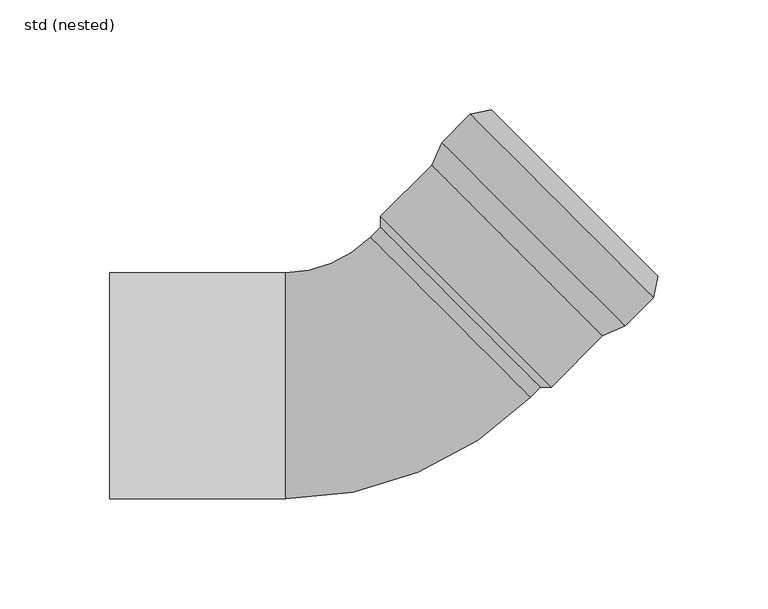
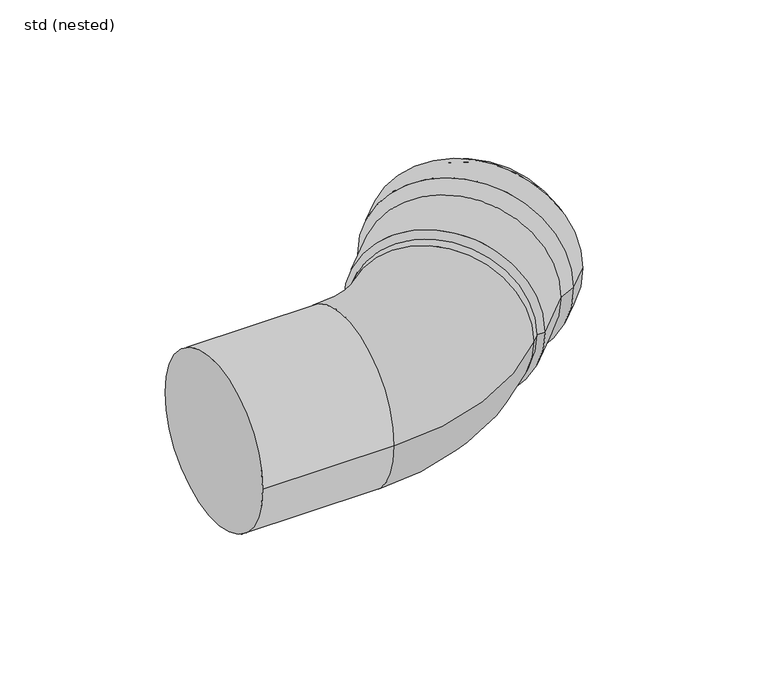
"""IFC4 building model written with IfcOpenShell, lengths in millimetres: pipe fitting geometry, ZZZ_do not use_PIF_ST_UN_GM-X pipe bend_ACO : std (nested)."""

from ifc_helpers import new_model, si_unit, point, frame, origin, place, context, project, spatial, polyline, circle_curve, ellipse_curve, trimmed, source, transform, mapped, element, save
from ifc_brep_helpers import plane_surface, cylinder_surface, revolved_surface, advanced_brep


def std_nested_b571e0d2(model_context):
    return source(origin(), model_context, "Body", "AdvancedBrep", [
        advanced_brep(
        [(110.6622113, 27.2236111, 0.0), (27.2236111, 110.6622113, 0.0), (40.0929545, 123.5315547, 0.0), (123.5315547, 40.0929545, 0.0), (100.4091629, 22.627417, 0.0), (22.627417, 100.4091629, 0.0), (49.8510281, 125.5114537, 0.0), (125.5114537, 49.8510281, 0.0), (77.0746391, -0.7071068, 0.0), (-0.7071068, 77.0746391, 0.0), (72.1248917, -0.7071068, 0.0), (-0.7071068, 72.1248917, 0.0), (74.5997654, 1.767767, 0.0), (1.767767, 74.5997654, 0.0), (99.2552009, 24.3018821, 0.0), (24.3018821, 99.2552009, 0.0), (0.7071068, 75.6604256, 0.0), (75.6604256, 0.7071068, 0.0), (109.5082492, 28.8980762, 0.0), (28.8980762, 109.5082492, 0.0), (121.691301, 41.081128, 0.0), (41.081128, 121.691301, 0.0), (123.5513925, 50.2487216, 0.0), (50.2487216, 123.5513925, 0.0)],
        [
            (0, 1, circle_curve(frame((68.9429112, 68.9429112, 0.0), z_axis=(0.7071067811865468, 0.7071067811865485, 0.0), x_axis=(-0.7071067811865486, 0.7071067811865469, 0.0)), 59.0)),
            (1, 2),
            (2, 3, circle_curve(frame((81.8122546, 81.8122546, 0.0), z_axis=(-0.7071067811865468, -0.7071067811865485, 0.0), x_axis=(-0.7071067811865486, 0.7071067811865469, 0.0)), 59.0)),
            (3, 0),
            (1, 0, circle_curve(frame((68.9429112, 68.9429112, 0.0), z_axis=(0.7071067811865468, 0.7071067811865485, 0.0), x_axis=(-0.7071067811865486, 0.7071067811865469, 0.0)), 59.0)),
            (3, 2, circle_curve(frame((81.8122546, 81.8122546, 0.0), z_axis=(-0.7071067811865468, -0.7071067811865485, 0.0), x_axis=(-0.7071067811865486, 0.7071067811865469, 0.0)), 59.0)),
            (4, 5, circle_curve(frame((61.51829, 61.51829, 0.0), z_axis=(0.7071067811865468, 0.7071067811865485, 0.0), x_axis=(-0.7071067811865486, 0.7071067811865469, 0.0)), 55.0)),
            (5, 1),
            (0, 4),
            (5, 4, circle_curve(frame((61.51829, 61.51829, 0.0), z_axis=(0.7071067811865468, 0.7071067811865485, 0.0), x_axis=(-0.7071067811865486, 0.7071067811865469, 0.0)), 55.0)),
            (2, 6),
            (6, 7, circle_curve(frame((87.6812409, 87.6812409, 0.0), z_axis=(-0.7071067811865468, -0.7071067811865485, 0.0), x_axis=(-0.7071067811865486, 0.7071067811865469, 0.0)), 53.5)),
            (7, 3),
            (7, 6, circle_curve(frame((87.6812409, 87.6812409, 0.0), z_axis=(-0.7071067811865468, -0.7071067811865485, 0.0), x_axis=(-0.7071067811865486, 0.7071067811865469, 0.0)), 53.5)),
            (8, 9, circle_curve(frame((38.1837662, 38.1837662, 0.0), z_axis=(0.7071067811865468, 0.7071067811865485, 0.0), x_axis=(-0.7071067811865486, 0.7071067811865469, 0.0)), 55.0)),
            (9, 5),
            (4, 8),
            (9, 8, circle_curve(frame((38.1837662, 38.1837662, 0.0), z_axis=(0.7071067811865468, 0.7071067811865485, 0.0), x_axis=(-0.7071067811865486, 0.7071067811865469, 0.0)), 55.0)),
            (10, 11, circle_curve(frame((35.7088924, 35.7088924, 0.0), z_axis=(0.7071067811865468, 0.7071067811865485, 0.0), x_axis=(-0.7071067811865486, 0.7071067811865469, 0.0)), 51.5)),
            (11, 9),
            (8, 10),
            (11, 10, circle_curve(frame((35.7088924, 35.7088924, 0.0), z_axis=(0.7071067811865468, 0.7071067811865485, 0.0), x_axis=(-0.7071067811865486, 0.7071067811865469, 0.0)), 51.5)),
            (12, 13, circle_curve(frame((38.1837662, 38.1837662, 0.0), z_axis=(0.7071067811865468, 0.7071067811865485, 0.0), x_axis=(-0.7071067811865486, 0.7071067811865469, 0.0)), 51.5)),
            (13, 11),
            (10, 12),
            (13, 12, circle_curve(frame((38.1837662, 38.1837662, 0.0), z_axis=(0.7071067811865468, 0.7071067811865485, 0.0), x_axis=(-0.7071067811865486, 0.7071067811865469, 0.0)), 51.5)),
            (14, 15, circle_curve(frame((61.7785415, 61.7785415, 0.0), z_axis=(0.7071067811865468, 0.7071067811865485, 0.0), x_axis=(-0.7071067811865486, 0.7071067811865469, 0.0)), 53.0)),
            (15, 16),
            (16, 17, circle_curve(frame((38.1837662, 38.1837662, 0.0), z_axis=(-0.7071067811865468, -0.7071067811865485, 0.0), x_axis=(-0.7071067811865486, 0.7071067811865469, 0.0)), 53.0)),
            (17, 14),
            (15, 14, circle_curve(frame((61.7785415, 61.7785415, 0.0), z_axis=(0.7071067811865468, 0.7071067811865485, 0.0), x_axis=(-0.7071067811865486, 0.7071067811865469, 0.0)), 53.0)),
            (17, 16, circle_curve(frame((38.1837662, 38.1837662, 0.0), z_axis=(-0.7071067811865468, -0.7071067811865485, 0.0), x_axis=(-0.7071067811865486, 0.7071067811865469, 0.0)), 53.0)),
            (18, 19, circle_curve(frame((69.2031627, 69.2031627, 0.0), z_axis=(0.7071067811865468, 0.7071067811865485, 0.0), x_axis=(-0.7071067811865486, 0.7071067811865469, 0.0)), 57.0)),
            (19, 15),
            (14, 18),
            (19, 18, circle_curve(frame((69.2031627, 69.2031627, 0.0), z_axis=(0.7071067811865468, 0.7071067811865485, 0.0), x_axis=(-0.7071067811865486, 0.7071067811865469, 0.0)), 57.0)),
            (20, 21, circle_curve(frame((81.3862145, 81.3862145, 0.0), z_axis=(0.7071067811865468, 0.7071067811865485, 0.0), x_axis=(-0.7071067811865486, 0.7071067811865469, 0.0)), 57.0)),
            (21, 19),
            (18, 20),
            (21, 20, circle_curve(frame((81.3862145, 81.3862145, 0.0), z_axis=(0.7071067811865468, 0.7071067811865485, 0.0), x_axis=(-0.7071067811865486, 0.7071067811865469, 0.0)), 57.0)),
            (22, 23, circle_curve(frame((86.9000571, 86.9000571, 0.0), z_axis=(0.7071067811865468, 0.7071067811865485, 0.0), x_axis=(-0.7071067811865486, 0.7071067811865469, 0.0)), 51.8328156)),
            (23, 21),
            (20, 22),
            (23, 22, circle_curve(frame((86.9000571, 86.9000571, 0.0), z_axis=(0.7071067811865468, 0.7071067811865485, 0.0), x_axis=(-0.7071067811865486, 0.7071067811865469, 0.0)), 51.8328156)),
            (6, 23),
            (22, 7),
            (16, 13),
            (12, 17),
        ],
        [
            cylinder_surface(frame((85.3084816, 85.3084816, 0.0), z_axis=(-0.7071067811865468, -0.7071067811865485, 0.0), x_axis=(-0.7071067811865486, 0.7071067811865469, 0.0)), 59.0),
            revolved_surface(polyline([(27.2236111, 110.6622113, 0.0), (22.627417, 100.4091629, 0.0)]), (85.3084816, 85.3084816, 0.0), (-0.7071067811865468, -0.7071067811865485, 0.0)),
            revolved_surface(polyline([(49.8510281, 125.5114537, 0.0), (40.0929545, 123.5315547, 0.0)]), (85.3084816, 85.3084816, 0.0), (-0.7071067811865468, -0.7071067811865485, 0.0)),
            cylinder_surface(frame((85.3084816, 85.3084816, 0.0), z_axis=(-0.7071067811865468, -0.7071067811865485, 0.0), x_axis=(-0.7071067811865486, 0.7071067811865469, 0.0)), 55.0),
            revolved_surface(polyline([(-0.7071068, 77.0746391, 0.0), (-0.7071068, 72.1248917, 0.0)]), (85.3084816, 85.3084816, 0.0), (-0.7071067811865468, -0.7071067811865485, 0.0)),
            revolved_surface(polyline([(-0.7071068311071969, 72.12489163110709, 0.0), (1.767766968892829, 74.59976543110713, 0.0)]), (85.3084816, 85.3084816, 0.0), (-0.7071067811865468, -0.7071067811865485, 0.0)),
            revolved_surface(polyline([(0.7071067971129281, 75.66042560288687, 0.0), (24.301882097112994, 99.255200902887, 0.0)]), (85.3084816, 85.3084816, 0.0), (-0.7071067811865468, -0.7071067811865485, 0.0)),
            revolved_surface(polyline([(24.3018821, 99.2552009, 0.0), (28.8980762, 109.5082492, 0.0)]), (85.3084816, 85.3084816, 0.0), (-0.7071067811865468, -0.7071067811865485, 0.0)),
            revolved_surface(polyline([(28.898076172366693, 109.50824922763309, 0.0), (41.08112797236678, 121.6913010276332, 0.0)]), (85.3084816, 85.3084816, 0.0), (-0.7071067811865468, -0.7071067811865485, 0.0)),
            revolved_surface(polyline([(41.081128, 121.691301, 0.0), (50.2487216, 123.5513925, 0.0)]), (85.3084816, 85.3084816, 0.0), (-0.7071067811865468, -0.7071067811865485, 0.0)),
            revolved_surface(polyline([(50.2487216, 123.5513925, 0.0), (49.8510281, 125.5114537, 0.0)]), (85.3084816, 85.3084816, 0.0), (-0.7071067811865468, -0.7071067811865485, 0.0)),
            plane_surface(frame((38.1837662, 38.1837662, 0.0), z_axis=(0.7071067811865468, 0.7071067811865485, 0.0), x_axis=(-0.7071067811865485, 0.7071067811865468, 0.0))),
        ],
        [
            (0, [[1, 2, 3, 4]]),
            (0, [[5, -4, 6, -2]]),
            (1, [[7, 8, -1, 9]]),
            (1, [[10, -9, -5, -8]]),
            (2, [[-3, 11, 12, 13]]),
            (2, [[-6, -13, 14, -11]]),
            (3, [[15, 16, -7, 17]]),
            (3, [[18, -17, -10, -16]]),
            (4, [[19, 20, -15, 21]]),
            (4, [[22, -21, -18, -20]]),
            (5, [[23, 24, -19, 25]]),
            (5, [[26, -25, -22, -24]]),
            (6, [[27, 28, 29, 30]]),
            (6, [[31, -30, 32, -28]]),
            (7, [[33, 34, -27, 35]]),
            (7, [[36, -35, -31, -34]]),
            (8, [[37, 38, -33, 39]]),
            (8, [[40, -39, -36, -38]]),
            (9, [[41, 42, -37, 43]]),
            (9, [[44, -43, -40, -42]]),
            (10, [[-12, 45, -41, 46]]),
            (10, [[-14, -46, -44, -45]]),
            (11, [[-29, 47, -23, 48]]),
            (11, [[-32, -48, -26, -47]]),
        ],
    ),
        advanced_brep(
        [(-5.3033009, 67.5286976, 0.0), (-44.0, 51.5, 0.0), (-44.0, -51.5, 0.0), (67.5286976, -5.3033009, 0.0), (31.1126984, 31.1126984, 51.5), (31.1126984, 31.1126984, -51.5), (-124.0, -51.5, 0.0), (-124.0, 51.5, 0.0), (74.5997654, 1.767767, 0.0), (1.767767, 74.5997654, 0.0)],
        [
            (0, 1, circle_curve(frame((-44.0, 106.2253967, 0.0), z_axis=(0.0, 0.0, -1.0), x_axis=(0.0, -1.0, 0.0)), 54.7253967)),
            (1, 2, circle_curve(frame((-44.0, 0.0, 0.0), z_axis=(1.0, 0.0, 0.0), x_axis=(0.0, 1.0, 0.0)), 51.5)),
            (2, 3, circle_curve(frame((-44.0, 106.2253967, 0.0), z_axis=(0.0, 0.0, 1.0), x_axis=(0.0, -1.0, 0.0)), 157.7253967)),
            (3, 4, circle_curve(frame((31.1126984, 31.1126984, 0.0), z_axis=(-0.7071067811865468, -0.7071067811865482, 0.0), x_axis=(-0.7071067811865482, 0.7071067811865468, 0.0)), 51.5)),
            (4, 0, circle_curve(frame((31.1126984, 31.1126984, 0.0), z_axis=(-0.7071067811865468, -0.7071067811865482, 0.0), x_axis=(-0.7071067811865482, 0.7071067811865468, 0.0)), 51.5)),
            (0, 5, circle_curve(frame((31.1126984, 31.1126984, 0.0), z_axis=(-0.7071067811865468, -0.7071067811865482, 0.0), x_axis=(-0.7071067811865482, 0.7071067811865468, 0.0)), 51.5)),
            (5, 3, circle_curve(frame((31.1126984, 31.1126984, 0.0), z_axis=(-0.7071067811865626, -0.7071067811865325, 0.0), x_axis=(-0.7071067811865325, 0.7071067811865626, 0.0)), 51.5)),
            (2, 1, circle_curve(frame((-44.0, 0.0, 0.0), z_axis=(1.0, 0.0, 0.0), x_axis=(0.0, 1.0, 0.0)), 51.5)),
            (6, 7, circle_curve(frame((-124.0, 0.0, 0.0), z_axis=(-1.0, 0.0, 0.0), x_axis=(0.0, 1.0, 0.0)), 51.5)),
            (7, 6, circle_curve(frame((-124.0, 0.0, 0.0), z_axis=(-1.0, 0.0, 0.0), x_axis=(0.0, 1.0, 0.0)), 51.5)),
            (7, 1),
            (2, 6),
            (8, 9, circle_curve(frame((38.1837662, 38.1837662, 0.0), z_axis=(0.7071067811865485, 0.7071067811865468, 0.0), x_axis=(-0.7071067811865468, 0.7071067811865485, 0.0)), 51.5)),
            (9, 8, circle_curve(frame((38.1837662, 38.1837662, 0.0), z_axis=(0.7071067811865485, 0.7071067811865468, 0.0), x_axis=(-0.7071067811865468, 0.7071067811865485, 0.0)), 51.5)),
            (9, 0),
            (3, 8),
        ],
        [
            revolved_surface(trimmed(ellipse_curve(frame((-44.0, 0.0, 0.0), z_axis=(-1.0, 0.0, 0.0), x_axis=(0.0, 1.0, 0.0)), 51.5, 51.5), [point((-44.0, -51.5, 0.0))], [point((-44.0, 51.5, 0.0))], True, "CARTESIAN"), (-44.0, 106.2253967, 0.0), (0.0, 0.0, 1.0)),
            revolved_surface(trimmed(ellipse_curve(frame((-44.0, 0.0, 0.0), z_axis=(-1.0, 0.0, 0.0), x_axis=(0.0, 1.0, 0.0)), 51.5, 51.5), [point((-44.0, 51.5, 0.0))], [point((-44.0, -51.5, 0.0))], True, "CARTESIAN"), (-44.0, 106.2253967, 0.0), (0.0, 0.0, 1.0)),
            plane_surface(frame((-124.0, 51.5, 0.0), z_axis=(-1.0, 0.0, 0.0), x_axis=(0.0, 0.0, -1.0))),
            cylinder_surface(frame((-124.0, 0.0, 0.0), z_axis=(1.0, 0.0, 0.0), x_axis=(0.0, 1.0, 0.0)), 51.5),
            plane_surface(frame((38.1837662, 38.1837662, 0.0), z_axis=(0.7071067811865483, 0.7071067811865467, 0.0), x_axis=(0.0, 0.0, 1.0))),
            cylinder_surface(frame((31.1126984, 31.1126984, 0.0), z_axis=(-0.7071067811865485, -0.7071067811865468, 0.0), x_axis=(-0.7071067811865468, 0.7071067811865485, 0.0)), 51.5),
        ],
        [
            (0, [[1, 2, 3, 4, 5]]),
            (1, [[-1, 6, 7, -3, 8]]),
            (2, [[9, 10]]),
            (3, [[-10, 11, -8, 12]]),
            (3, [[-9, -12, -2, -11]]),
            (4, [[13, 14]]),
            (5, [[-14, 15, -5, -4, 16]]),
            (5, [[-13, -16, -7, -6, -15]]),
        ],
    ),
    ])


if __name__ == "__main__":
    model = new_model("IFC4")
    model_context = context("Model", 3, world=origin())
    ifc_project = project(units=[si_unit("LENGTHUNIT", "METRE", prefix="MILLI")], contexts=[model_context])
    site = spatial("IfcSite", under=ifc_project)
    building = spatial("IfcBuilding", under=site)
    placement = place(None, origin())
    std_nested_shape = std_nested_b571e0d2(model_context)
    element("IfcPipeFitting", 1, ObjectType="ZZZ_do not use_PIF_ST_UN_GM-X pipe bend_ACO : std (nested)", at=placement, inside=building, context=model_context, shape_type="MappedRepresentation", body=[
        mapped(std_nested_shape, transform((0.0, 0.0, 0.0), x_axis=(1.0, 0.0, 0.0), y_axis=(0.0, 1.0, 0.0), z_axis=(0.0, 0.0, 1.0))),
    ])
    save(model, "model.ifc")
